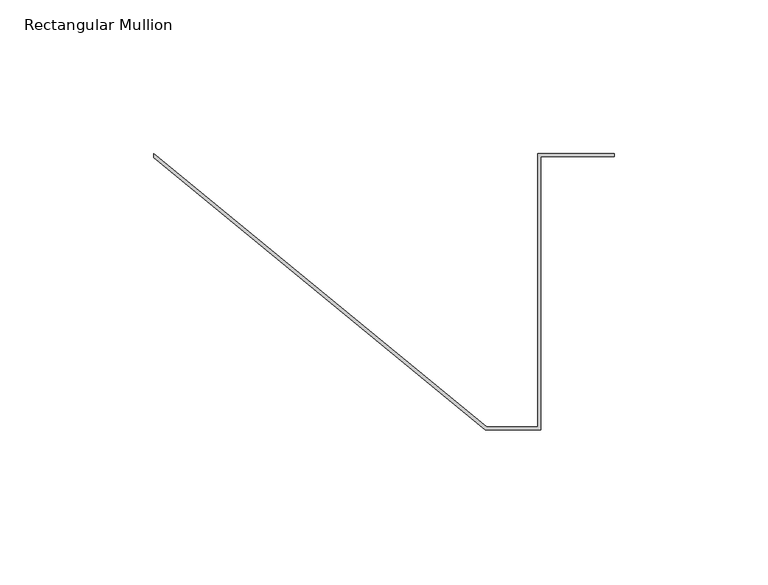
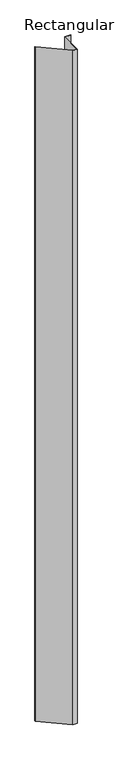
"""IFC4 building model written with IfcOpenShell, lengths in millimetres: member geometry, Rectangular Mullion : CD_NINELINE_Sawtooth Start Intermediate."""

from ifc_helpers import new_model, si_unit, frame, origin, place, context, project, spatial, polyline, outline, extrude, source, transform, mapped, element, save


def rectangular_mullion_1c1d068f(model_context):
    return source(origin(), model_context, "Body", "SweptSolid", [
        extrude(outline(polyline([(58.5, 0.0), (83.5, 0.0), (83.5, -1.0), (59.5, -1.0), (59.5, -90.0), (41.5090129, -90.0), (-66.5, -1.337022), (-66.5, 0.0), (41.9195723, -89.0), (58.5, -89.0), (58.5, 0.0)])), frame((0.0, 0.0, -3000.0), z_axis=(0.0, 0.0, 1.0), x_axis=(1.0, 0.0, 0.0)), (0.0, 0.0, 1.0), 3000.0),
    ])


if __name__ == "__main__":
    model = new_model("IFC4")
    model_context = context("Model", 3, world=origin())
    ifc_project = project(units=[si_unit("LENGTHUNIT", "METRE", prefix="MILLI")], contexts=[model_context])
    site = spatial("IfcSite", under=ifc_project)
    building = spatial("IfcBuilding", under=site)
    placement = place(None, origin())
    rectangular_mullion_shape = rectangular_mullion_1c1d068f(model_context)
    element("IfcMember", 1, ObjectType="Rectangular Mullion : CD_NINELINE_Sawtooth Start Intermediate", at=placement, inside=building, context=model_context, shape_type="MappedRepresentation", body=[
        mapped(rectangular_mullion_shape, transform((0.0, 0.0, 0.0), x_axis=(1.0, 0.0, 0.0), y_axis=(0.0, 1.0, 0.0), z_axis=(0.0, 0.0, 1.0))),
    ])
    save(model, "model.ifc")
